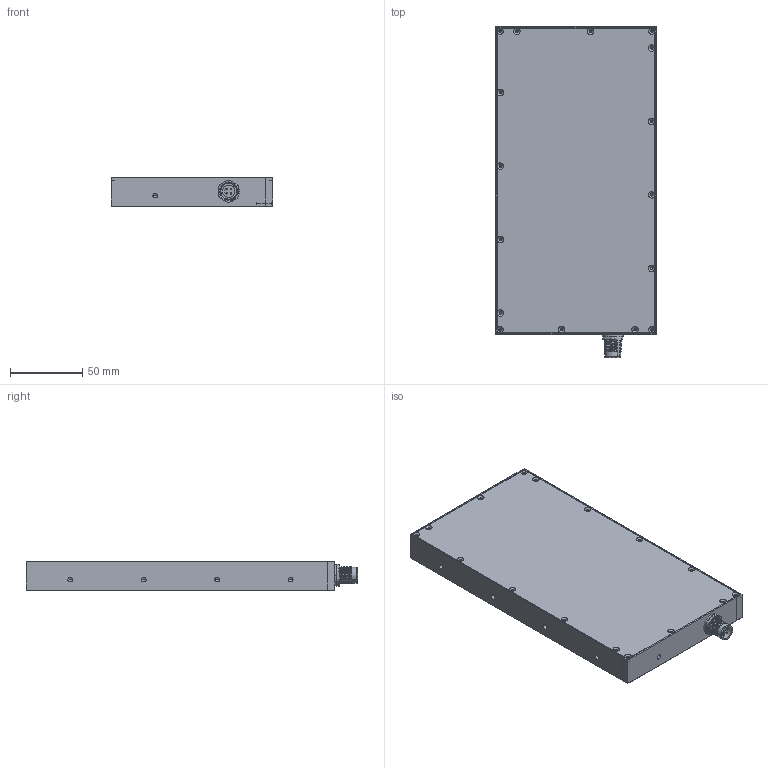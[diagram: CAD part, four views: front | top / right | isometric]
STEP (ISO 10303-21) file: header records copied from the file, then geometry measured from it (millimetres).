
FILE_DESCRIPTION (( 'STEP AP214' ), '1' );
FILE_NAME ('SBACK II 200x100.STEP', '2017-03-02T13:50:58', ( '' ), ( '' ), 'SwSTEP 2.0', 'SolidWorks 2014', '' );
FILE_SCHEMA (( 'AUTOMOTIVE_DESIGN' ));
Length unit declared in the file: millimetre
Products named in the file (9): EC-03-051-301_D‚faut; EC-03-051-113_D‚faut; SBACK II 200x100; Ecrou_DＧaut; Joint_DＧaut; connecteur M12_D‚faut; 006013_version connecteur; EC-03-051-105_100x200; EC-03-051-311_D‚faut
Assembly tree (9 placements, depth 2):
  SBACK II 200x100
    EC-03-051-113_D‚faut
    EC-03-051-301_D‚faut  x2
    EC-03-051-311_D‚faut
    EC-03-051-105_100x200
    006013_version connecteur
    connecteur M12_D‚faut
    Joint_DＧaut
    Ecrou_DＧaut
Bounding box: 112 x 230 x 20 mm (x, y, z)
Volume: 166208.5 mm3; surface area: 131210.8 mm2
Topology: 9 solids, 9 shells, 510 faces, 1340 edges, 811 vertices
Faces by surface type: cylinder 200, plane 132, cone 122, bspline 48, sphere 8
Entity records: 32552 total; most frequent: CARTESIAN_POINT 21268, ORIENTED_EDGE 2210, DIRECTION 2062, EDGE_CURVE 1105, AXIS2_PLACEMENT_3D 755, VERTEX_POINT 709, LINE 552, VECTOR 552
